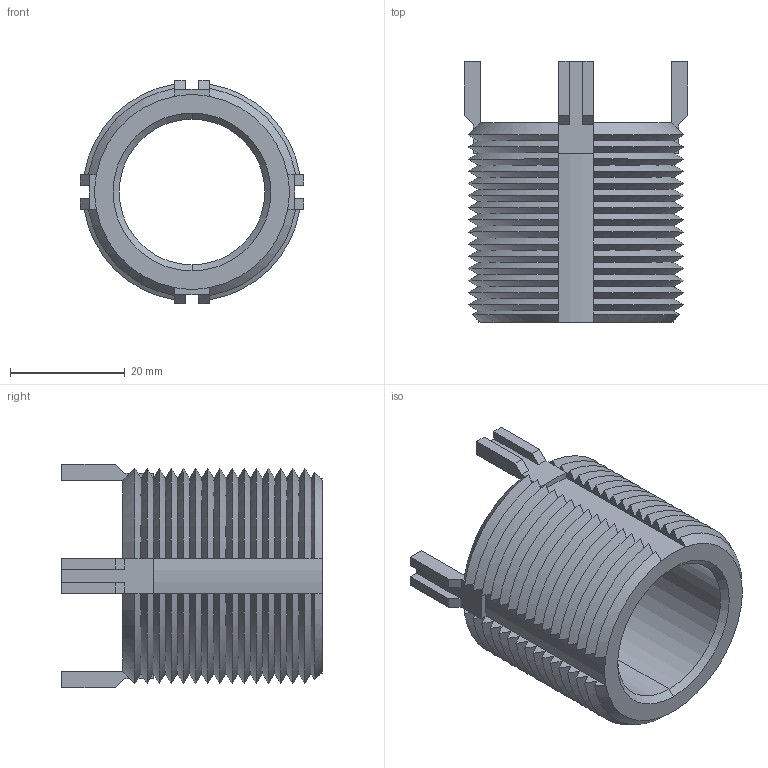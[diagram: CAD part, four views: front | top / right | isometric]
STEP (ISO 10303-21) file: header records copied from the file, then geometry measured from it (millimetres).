
FILE_DESCRIPTION (( 'STEP AP203' ), '1' );
FILE_NAME ('22034.W0431.step', '2023-04-20T10:00:16', ( '' ), ( '' ), 'SwSTEP 2.0', 'SolidWorks 2019', '' );
FILE_SCHEMA (( 'CONFIG_CONTROL_DESIGN' ));
Length unit declared in the file: millimetre
Products named in the file (1): 22034.W0431
Bounding box: 38.93 x 45.45 x 38.93 mm (x, y, z)
Volume: 17808.1 mm3; surface area: 11621.4 mm2
Topology: 1 solids, 1 shells, 228 faces, 618 edges, 392 vertices
Faces by surface type: cone 132, plane 90, cylinder 6
Entity records: 8199 total; most frequent: CARTESIAN_POINT 2859, ORIENTED_EDGE 1236, DIRECTION 928, EDGE_CURVE 618, VERTEX_POINT 392, AXIS2_PLACEMENT_3D 377, B_SPLINE_CURVE_WITH_KNOTS 296, EDGE_LOOP 230
